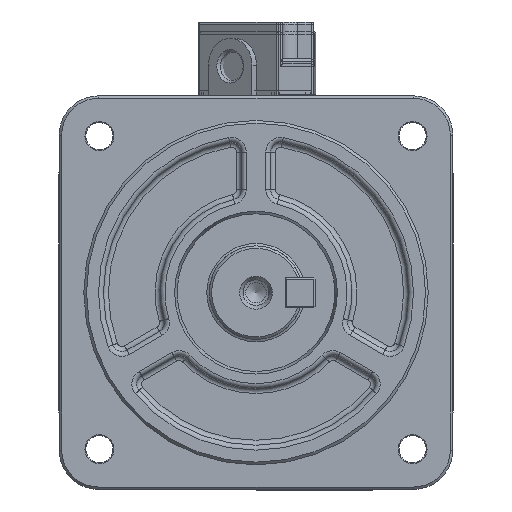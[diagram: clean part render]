
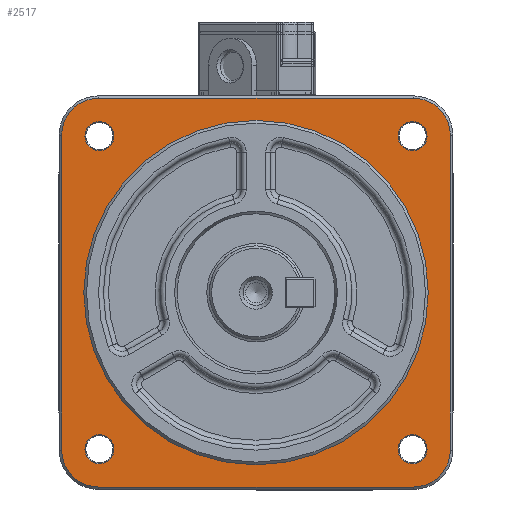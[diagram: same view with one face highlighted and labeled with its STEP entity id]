
A CAD part, left-side view. The second image highlights one B-rep face of the part: STEP entity #2517.
In plain terms, the highlighted planar face has unit normal (-1, 0, 0).
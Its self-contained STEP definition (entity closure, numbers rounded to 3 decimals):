
#2517 = ADVANCED_FACE( '', ( #5418, #5419, #5420, #5421, #5422, #5423 ), #5424, .F. );
#5418 = FACE_OUTER_BOUND( '', #9480, .T. );
#5419 = FACE_BOUND( '', #9481, .T. );
#5420 = FACE_BOUND( '', #9482, .T. );
#5421 = FACE_BOUND( '', #9483, .T. );
#5422 = FACE_BOUND( '', #9484, .T. );
#5423 = FACE_BOUND( '', #9485, .T. );
#5424 = PLANE( '', #9486 );
#9480 = EDGE_LOOP( '', ( #16565, #16566, #16567, #16568, #16569, #16570, #16571, #16572 ) );
#9481 = EDGE_LOOP( '', ( #16573 ) );
#9482 = EDGE_LOOP( '', ( #16574 ) );
#9483 = EDGE_LOOP( '', ( #16575 ) );
#9484 = EDGE_LOOP( '', ( #16576 ) );
#9485 = EDGE_LOOP( '', ( #16577 ) );
#9486 = AXIS2_PLACEMENT_3D( '', #16578, #16579, #16580 );
#16565 = ORIENTED_EDGE( '', *, *, #23364, .T. );
#16566 = ORIENTED_EDGE( '', *, *, #21430, .T. );
#16567 = ORIENTED_EDGE( '', *, *, #21486, .T. );
#16568 = ORIENTED_EDGE( '', *, *, #23043, .T. );
#16569 = ORIENTED_EDGE( '', *, *, #23139, .T. );
#16570 = ORIENTED_EDGE( '', *, *, #23365, .T. );
#16571 = ORIENTED_EDGE( '', *, *, #23060, .T. );
#16572 = ORIENTED_EDGE( '', *, *, #21273, .T. );
#16573 = ORIENTED_EDGE( '', *, *, #23366, .T. );
#16574 = ORIENTED_EDGE( '', *, *, #23367, .T. );
#16575 = ORIENTED_EDGE( '', *, *, #23164, .T. );
#16576 = ORIENTED_EDGE( '', *, *, #22791, .T. );
#16577 = ORIENTED_EDGE( '', *, *, #22246, .T. );
#16578 = CARTESIAN_POINT( '', ( 3., 0., 0. ) );
#16579 = DIRECTION( '', ( 1., 0., 0. ) );
#16580 = DIRECTION( '', ( 0., 1., 0. ) );
#21273 = EDGE_CURVE( '', #25383, #25384, #25385, .F. );
#21430 = EDGE_CURVE( '', #25654, #25655, #25656, .F. );
#21486 = EDGE_CURVE( '', #25655, #25750, #25751, .F. );
#22246 = EDGE_CURVE( '', #26963, #26963, #26964, .T. );
#22791 = EDGE_CURVE( '', #27783, #27783, #27784, .T. );
#23043 = EDGE_CURVE( '', #25750, #28135, #28136, .F. );
#23060 = EDGE_CURVE( '', #28158, #25383, #28159, .F. );
#23139 = EDGE_CURVE( '', #28135, #28264, #28265, .F. );
#23164 = EDGE_CURVE( '', #28297, #28297, #28298, .T. );
#23364 = EDGE_CURVE( '', #25384, #25654, #28561, .F. );
#23365 = EDGE_CURVE( '', #28264, #28158, #28562, .F. );
#23366 = EDGE_CURVE( '', #28563, #28563, #28564, .T. );
#23367 = EDGE_CURVE( '', #28565, #28565, #28566, .T. );
#25383 = VERTEX_POINT( '', #31951 );
#25384 = VERTEX_POINT( '', #31952 );
#25385 = CIRCLE( '', #31953, 7.5 );
#25654 = VERTEX_POINT( '', #32909 );
#25655 = VERTEX_POINT( '', #32910 );
#25656 = CIRCLE( '', #32911, 7.5 );
#25750 = VERTEX_POINT( '', #33079 );
#25751 = LINE( '', #33080, #33081 );
#26963 = VERTEX_POINT( '', #36041 );
#26964 = CIRCLE( '', #36042, 35. );
#27783 = VERTEX_POINT( '', #38626 );
#27784 = CIRCLE( '', #38627, 2.95 );
#28135 = VERTEX_POINT( '', #39498 );
#28136 = CIRCLE( '', #39499, 7.5 );
#28158 = VERTEX_POINT( '', #39529 );
#28159 = LINE( '', #39530, #39531 );
#28264 = VERTEX_POINT( '', #39690 );
#28265 = LINE( '', #39691, #39692 );
#28297 = VERTEX_POINT( '', #39802 );
#28298 = CIRCLE( '', #39803, 2.95 );
#28561 = LINE( '', #40911, #40912 );
#28562 = CIRCLE( '', #40913, 7.5 );
#28563 = VERTEX_POINT( '', #40914 );
#28564 = CIRCLE( '', #40915, 2.95 );
#28565 = VERTEX_POINT( '', #40916 );
#28566 = CIRCLE( '', #40917, 2.95 );
#31951 = CARTESIAN_POINT( '', ( 3., -32., -39.5 ) );
#31952 = CARTESIAN_POINT( '', ( 3., -39.5, -32. ) );
#31953 = AXIS2_PLACEMENT_3D( '', #44439, #44440, #44441 );
#32909 = CARTESIAN_POINT( '', ( 3., -39.5, 32. ) );
#32910 = CARTESIAN_POINT( '', ( 3., -32., 39.5 ) );
#32911 = AXIS2_PLACEMENT_3D( '', #44638, #44639, #44640 );
#33079 = CARTESIAN_POINT( '', ( 3., 32., 39.5 ) );
#33080 = CARTESIAN_POINT( '', ( 3., 32., 39.5 ) );
#33081 = VECTOR( '', #44715, 1000. );
#36041 = CARTESIAN_POINT( '', ( 3., 0., 35. ) );
#36042 = AXIS2_PLACEMENT_3D( '', #45694, #45695, #45696 );
#38626 = CARTESIAN_POINT( '', ( 3., -28.87, 31.82 ) );
#38627 = AXIS2_PLACEMENT_3D( '', #46351, #46352, #46353 );
#39498 = CARTESIAN_POINT( '', ( 3., 39.5, 32. ) );
#39499 = AXIS2_PLACEMENT_3D( '', #46690, #46691, #46692 );
#39529 = CARTESIAN_POINT( '', ( 3., 32., -39.5 ) );
#39530 = CARTESIAN_POINT( '', ( 3., -32., -39.5 ) );
#39531 = VECTOR( '', #46710, 1000. );
#39690 = CARTESIAN_POINT( '', ( 3., 39.5, -32. ) );
#39691 = CARTESIAN_POINT( '', ( 3., 39.5, -32. ) );
#39692 = VECTOR( '', #46821, 1000. );
#39802 = CARTESIAN_POINT( '', ( 3., 34.77, 31.82 ) );
#39803 = AXIS2_PLACEMENT_3D( '', #46847, #46848, #46849 );
#40911 = CARTESIAN_POINT( '', ( 3., -39.5, 32. ) );
#40912 = VECTOR( '', #47072, 1000. );
#40913 = AXIS2_PLACEMENT_3D( '', #47073, #47074, #47075 );
#40914 = CARTESIAN_POINT( '', ( 3., -28.87, -31.82 ) );
#40915 = AXIS2_PLACEMENT_3D( '', #47076, #47077, #47078 );
#40916 = CARTESIAN_POINT( '', ( 3., 34.77, -31.82 ) );
#40917 = AXIS2_PLACEMENT_3D( '', #47079, #47080, #47081 );
#44439 = CARTESIAN_POINT( '', ( 3., -32., -32. ) );
#44440 = DIRECTION( '', ( 1., 0., 0. ) );
#44441 = DIRECTION( '', ( 0., 1., 0. ) );
#44638 = CARTESIAN_POINT( '', ( 3., -32., 32. ) );
#44639 = DIRECTION( '', ( 1., 0., 0. ) );
#44640 = DIRECTION( '', ( 0., 1., 0. ) );
#44715 = DIRECTION( '', ( 0., -1., 0. ) );
#45694 = CARTESIAN_POINT( '', ( 3., 0., 0. ) );
#45695 = DIRECTION( '', ( 1., 0., 0. ) );
#45696 = DIRECTION( '', ( 0., 0., 1. ) );
#46351 = CARTESIAN_POINT( '', ( 3., -31.82, 31.82 ) );
#46352 = DIRECTION( '', ( 1., 0., 0. ) );
#46353 = DIRECTION( '', ( 0., 1., 0. ) );
#46690 = CARTESIAN_POINT( '', ( 3., 32., 32. ) );
#46691 = DIRECTION( '', ( 1., 0., 0. ) );
#46692 = DIRECTION( '', ( 0., 1., 0. ) );
#46710 = DIRECTION( '', ( 0., 1., 0. ) );
#46821 = DIRECTION( '', ( 0., 0., 1. ) );
#46847 = CARTESIAN_POINT( '', ( 3., 31.82, 31.82 ) );
#46848 = DIRECTION( '', ( 1., 0., 0. ) );
#46849 = DIRECTION( '', ( 0., 1., 0. ) );
#47072 = DIRECTION( '', ( 0., 0., -1. ) );
#47073 = CARTESIAN_POINT( '', ( 3., 32., -32. ) );
#47074 = DIRECTION( '', ( 1., 0., 0. ) );
#47075 = DIRECTION( '', ( 0., 1., 0. ) );
#47076 = CARTESIAN_POINT( '', ( 3., -31.82, -31.82 ) );
#47077 = DIRECTION( '', ( 1., 0., 0. ) );
#47078 = DIRECTION( '', ( 0., 1., 0. ) );
#47079 = CARTESIAN_POINT( '', ( 3., 31.82, -31.82 ) );
#47080 = DIRECTION( '', ( 1., 0., 0. ) );
#47081 = DIRECTION( '', ( 0., 1., 0. ) );
